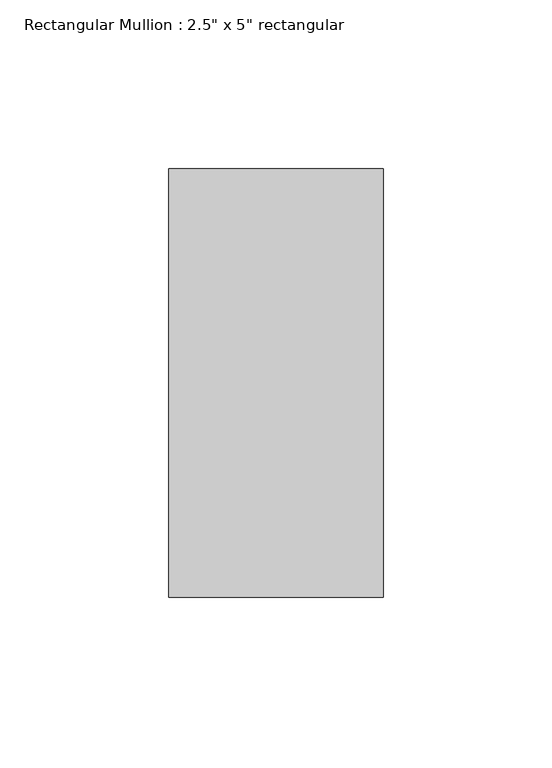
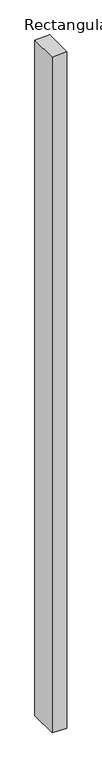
"""IFC4 building model written with IfcOpenShell, lengths in millimetres: member geometry."""

from ifc_helpers import new_model, si_unit, frame, origin, place, context, project, spatial, polyline, outline, extrude, source, transform, mapped, element, save


def member_ef7c23ca(model_context):
    return source(origin(), model_context, "Body", "SweptSolid", [
        extrude(outline(polyline([(0.0, 0.0), (-1.2427987, -63.5), (-3048.8446886, -63.5), (-3050.089295, 0.0), (0.0, 0.0)])), frame((0.0, -63.5, 0.0), z_axis=(0.0, 1.0, 0.0), x_axis=(0.0, 0.0, 1.0)), (0.0, 0.0, 1.0), 127.0),
    ])


if __name__ == "__main__":
    model = new_model("IFC4")
    model_context = context("Model", 3, world=origin())
    ifc_project = project(units=[si_unit("LENGTHUNIT", "METRE", prefix="MILLI")], contexts=[model_context])
    site = spatial("IfcSite", under=ifc_project)
    building = spatial("IfcBuilding", under=site)
    placement = place(None, origin())
    member_shape = member_ef7c23ca(model_context)
    element("IfcMember", 1, ObjectType="Rectangular Mullion : 2.5\" x 5\" rectangular", at=placement, inside=building, context=model_context, shape_type="MappedRepresentation", body=[
        mapped(member_shape, transform((0.0, 0.0, 0.0), x_axis=(1.0, 0.0, 0.0), y_axis=(0.0, 1.0, 0.0), z_axis=(0.0, 0.0, 1.0))),
    ])
    save(model, "model.ifc")
